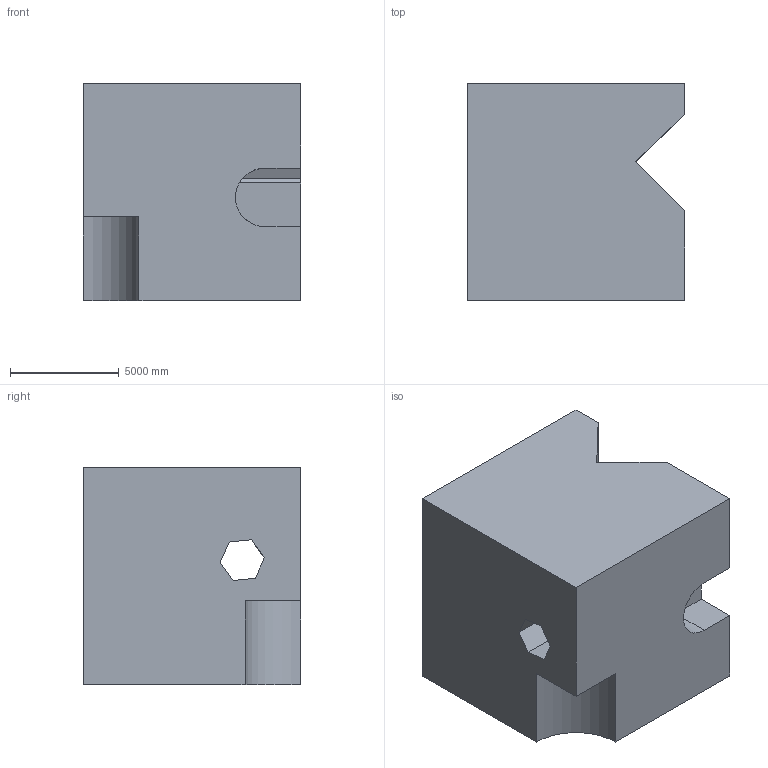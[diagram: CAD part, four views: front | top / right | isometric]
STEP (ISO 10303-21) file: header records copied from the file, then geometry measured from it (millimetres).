
FILE_DESCRIPTION (( 'STEP AP203' ), '1' );
FILE_NAME ('1378.STEP', '2022-08-18T14:08:06', ( 'user' ), ( '' ), 'SwSTEP 2.0', 'SolidWorks 2021', '' );
FILE_SCHEMA (( 'CONFIG_CONTROL_DESIGN' ));
Length unit declared in the file: centimetre
Products named in the file (1): 1378
Bounding box: 10000 x 10000 x 10000 mm (x, y, z)
Volume: 889324479121.6 mm3; surface area: 666264762.3 mm2
Topology: 1 solids, 1 shells, 21 faces, 60 edges, 40 vertices
Faces by surface type: plane 19, cylinder 2
Entity records: 759 total; most frequent: CARTESIAN_POINT 128, ORIENTED_EDGE 120, DIRECTION 106, EDGE_CURVE 60, LINE 54, VECTOR 54, VERTEX_POINT 40, AXIS2_PLACEMENT_3D 26
